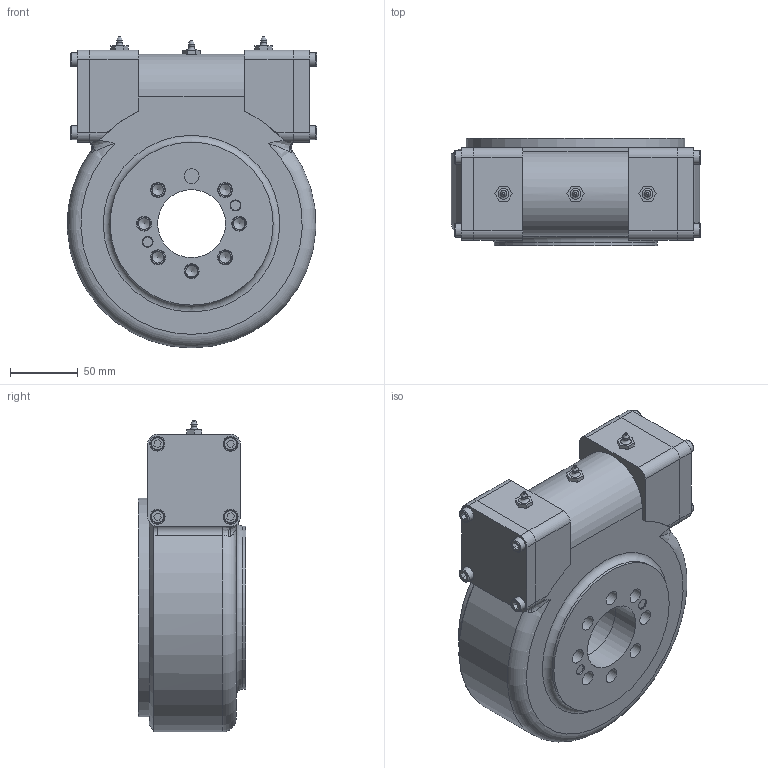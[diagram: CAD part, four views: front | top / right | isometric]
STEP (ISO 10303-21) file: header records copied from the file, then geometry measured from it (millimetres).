
FILE_DESCRIPTION (( 'STEP AP214' ), '1' );
FILE_NAME ('FGE5-62M-12S-REV.A.STEP', '2024-04-01T02:31:57', ( '' ), ( '' ), 'SwSTEP 2.0', 'SolidWorks 2018', '' );
FILE_SCHEMA (( 'AUTOMOTIVE_DESIGN' ));
Length unit declared in the file: millimetre
Products named in the file (1): FGE5-62M-12S-REV.A
Bounding box: 183.38 x 79 x 229.54 mm (x, y, z)
Volume: 1648018.2 mm3; surface area: 333045.9 mm2
Topology: 23 solids, 27 shells, 512 faces, 1121 edges, 735 vertices
Faces by surface type: plane 261, cylinder 169, cone 36, torus 29, bspline 9, sphere 8
Full cylindrical faces by diameter (mm): 1.5 x8, 6 x12, 7 x12, 8 x4, 8.5 x13, 9 x3, 10 x33, 11 x16, 13 x2, 14 x3, 18 x1, 19 x1, 25 x2, 32 x2, 39.7 x1, 45 x2, 46 x1, 50 x2, 52 x4, 58.3 x2, 65.3 x2, 103.5 x1, 104 x1, 105 x1, 115 x1, 120 x1, 156 x1, 160.5 x1, 161 x1, 165 x1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
Entity records: 19572 total; most frequent: CARTESIAN_POINT 3120, DIRECTION 2277, ORIENTED_EDGE 1734, AXIS2_PLACEMENT_3D 945, EDGE_CURVE 867, EDGE_LOOP 861, VERTEX_POINT 674, FACE_OUTER_BOUND 673
